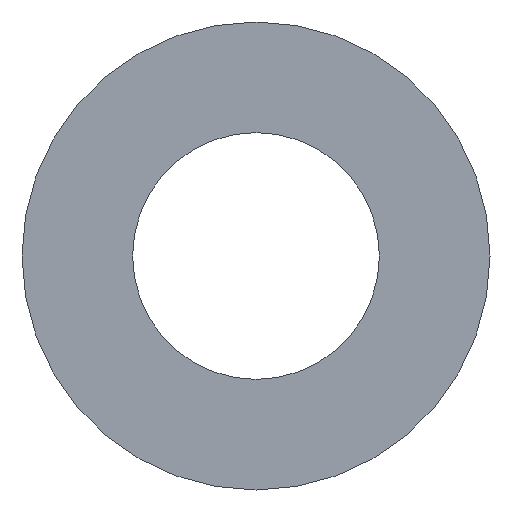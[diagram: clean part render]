
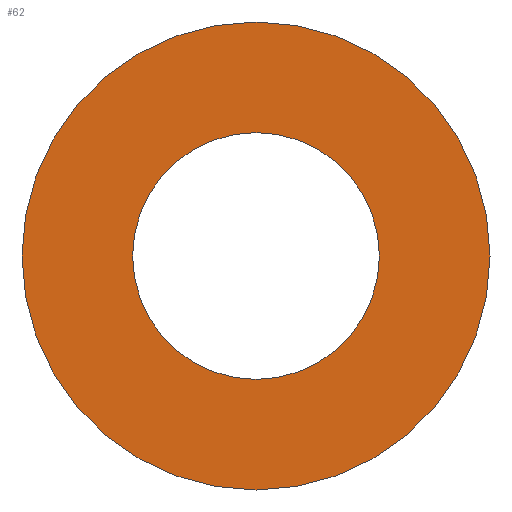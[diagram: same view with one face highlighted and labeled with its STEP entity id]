
A CAD part, front view. The second image highlights one B-rep face of the part: STEP entity #62.
In plain terms, the highlighted planar face has unit normal (0, -1, 0).
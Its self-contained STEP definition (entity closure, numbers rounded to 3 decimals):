
#20=PLANE('',#83);
#26=ORIENTED_EDGE('',*,*,#30,.T.);
#27=ORIENTED_EDGE('',*,*,#32,.F.);
#30=EDGE_CURVE('',#34,#34,#38,.T.);
#32=EDGE_CURVE('',#36,#36,#40,.T.);
#34=VERTEX_POINT('',#106);
#36=VERTEX_POINT('',#111);
#38=CIRCLE('',#78,164.5);
#40=CIRCLE('',#81,312.);
#46=EDGE_LOOP('',(#26));
#47=EDGE_LOOP('',(#27));
#54=FACE_BOUND('',#46,.T.);
#55=FACE_BOUND('',#47,.T.);
#62=ADVANCED_FACE('',(#54,#55),#20,.F.);
#78=AXIS2_PLACEMENT_3D('',#105,#89,#90);
#81=AXIS2_PLACEMENT_3D('',#110,#95,#96);
#83=AXIS2_PLACEMENT_3D('',#114,#99,#100);
#89=DIRECTION('',(0.,1.,0.));
#90=DIRECTION('',(1.,0.,0.));
#95=DIRECTION('',(0.,1.,0.));
#96=DIRECTION('',(1.,0.,0.));
#99=DIRECTION('',(0.,1.,0.));
#100=DIRECTION('',(0.,0.,1.));
#105=CARTESIAN_POINT('',(0.,-1.5,0.));
#106=CARTESIAN_POINT('',(164.5,-1.5,0.));
#110=CARTESIAN_POINT('',(0.,-1.5,0.));
#111=CARTESIAN_POINT('',(312.,-1.5,0.));
#114=CARTESIAN_POINT('',(0.,-1.5,0.));
